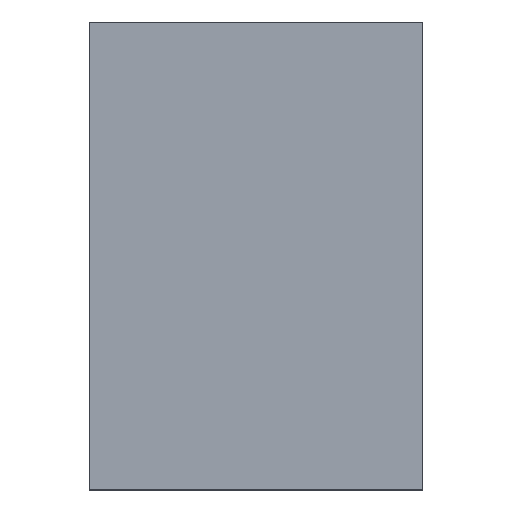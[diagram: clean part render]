
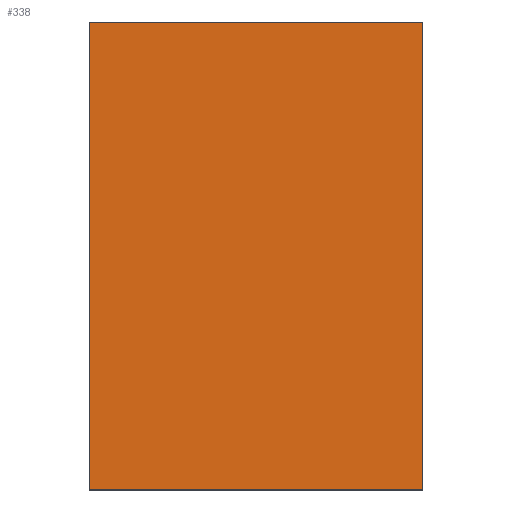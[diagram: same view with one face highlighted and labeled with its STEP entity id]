
A CAD part, top view. The second image highlights one B-rep face of the part: STEP entity #338.
In plain terms, the highlighted planar face has unit normal (0, 0, 1).
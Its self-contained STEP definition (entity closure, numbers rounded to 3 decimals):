
#24 = VERTEX_POINT('',#25);
#25 = CARTESIAN_POINT('',(-29.35,-41.9,13.));
#32 = PLANE('',#33);
#33 = AXIS2_PLACEMENT_3D('',#34,#35,#36);
#34 = CARTESIAN_POINT('',(-29.35,-41.9,12.));
#35 = DIRECTION('',(1.,0.,0.));
#36 = DIRECTION('',(0.,0.,1.));
#44 = PLANE('',#45);
#45 = AXIS2_PLACEMENT_3D('',#46,#47,#48);
#46 = CARTESIAN_POINT('',(-29.35,-41.9,12.));
#47 = DIRECTION('',(0.,1.,0.));
#48 = DIRECTION('',(0.,0.,1.));
#85 = VERTEX_POINT('',#86);
#86 = CARTESIAN_POINT('',(-29.35,-24.1,13.));
#100 = PLANE('',#101);
#101 = AXIS2_PLACEMENT_3D('',#102,#103,#104);
#102 = CARTESIAN_POINT('',(-29.35,-24.1,12.));
#103 = DIRECTION('',(0.,1.,0.));
#104 = DIRECTION('',(0.,0.,1.));
#112 = EDGE_CURVE('',#24,#85,#113,.T.);
#113 = SURFACE_CURVE('',#114,(#118,#125),.PCURVE_S1.);
#114 = LINE('',#115,#116);
#115 = CARTESIAN_POINT('',(-29.35,-41.9,13.));
#116 = VECTOR('',#117,1.);
#117 = DIRECTION('',(0.,1.,0.));
#118 = PCURVE('',#32,#119);
#119 = DEFINITIONAL_REPRESENTATION('',(#120),#124);
#120 = LINE('',#121,#122);
#121 = CARTESIAN_POINT('',(1.,0.));
#122 = VECTOR('',#123,1.);
#123 = DIRECTION('',(0.,-1.));
#124 = ( GEOMETRIC_REPRESENTATION_CONTEXT(2) 
PARAMETRIC_REPRESENTATION_CONTEXT() REPRESENTATION_CONTEXT('2D SPACE',''
  ) );
#125 = PCURVE('',#126,#131);
#126 = PLANE('',#127);
#127 = AXIS2_PLACEMENT_3D('',#128,#129,#130);
#128 = CARTESIAN_POINT('',(-29.35,-41.9,13.));
#129 = DIRECTION('',(0.,0.,1.));
#130 = DIRECTION('',(1.,0.,0.));
#131 = DEFINITIONAL_REPRESENTATION('',(#132),#136);
#132 = LINE('',#133,#134);
#133 = CARTESIAN_POINT('',(0.,0.));
#134 = VECTOR('',#135,1.);
#135 = DIRECTION('',(0.,1.));
#136 = ( GEOMETRIC_REPRESENTATION_CONTEXT(2) 
PARAMETRIC_REPRESENTATION_CONTEXT() REPRESENTATION_CONTEXT('2D SPACE',''
  ) );
#144 = VERTEX_POINT('',#145);
#145 = CARTESIAN_POINT('',(-16.65,-41.9,13.));
#152 = PLANE('',#153);
#153 = AXIS2_PLACEMENT_3D('',#154,#155,#156);
#154 = CARTESIAN_POINT('',(-16.65,-41.9,12.));
#155 = DIRECTION('',(1.,0.,0.));
#156 = DIRECTION('',(0.,0.,1.));
#195 = VERTEX_POINT('',#196);
#196 = CARTESIAN_POINT('',(-16.65,-24.1,13.));
#217 = EDGE_CURVE('',#144,#195,#218,.T.);
#218 = SURFACE_CURVE('',#219,(#223,#230),.PCURVE_S1.);
#219 = LINE('',#220,#221);
#220 = CARTESIAN_POINT('',(-16.65,-41.9,13.));
#221 = VECTOR('',#222,1.);
#222 = DIRECTION('',(0.,1.,0.));
#223 = PCURVE('',#152,#224);
#224 = DEFINITIONAL_REPRESENTATION('',(#225),#229);
#225 = LINE('',#226,#227);
#226 = CARTESIAN_POINT('',(1.,0.));
#227 = VECTOR('',#228,1.);
#228 = DIRECTION('',(0.,-1.));
#229 = ( GEOMETRIC_REPRESENTATION_CONTEXT(2) 
PARAMETRIC_REPRESENTATION_CONTEXT() REPRESENTATION_CONTEXT('2D SPACE',''
  ) );
#230 = PCURVE('',#126,#231);
#231 = DEFINITIONAL_REPRESENTATION('',(#232),#236);
#232 = LINE('',#233,#234);
#233 = CARTESIAN_POINT('',(12.7,0.));
#234 = VECTOR('',#235,1.);
#235 = DIRECTION('',(0.,1.));
#236 = ( GEOMETRIC_REPRESENTATION_CONTEXT(2) 
PARAMETRIC_REPRESENTATION_CONTEXT() REPRESENTATION_CONTEXT('2D SPACE',''
  ) );
#263 = EDGE_CURVE('',#24,#144,#264,.T.);
#264 = SURFACE_CURVE('',#265,(#269,#276),.PCURVE_S1.);
#265 = LINE('',#266,#267);
#266 = CARTESIAN_POINT('',(-29.35,-41.9,13.));
#267 = VECTOR('',#268,1.);
#268 = DIRECTION('',(1.,0.,0.));
#269 = PCURVE('',#44,#270);
#270 = DEFINITIONAL_REPRESENTATION('',(#271),#275);
#271 = LINE('',#272,#273);
#272 = CARTESIAN_POINT('',(1.,0.));
#273 = VECTOR('',#274,1.);
#274 = DIRECTION('',(0.,1.));
#275 = ( GEOMETRIC_REPRESENTATION_CONTEXT(2) 
PARAMETRIC_REPRESENTATION_CONTEXT() REPRESENTATION_CONTEXT('2D SPACE',''
  ) );
#276 = PCURVE('',#126,#277);
#277 = DEFINITIONAL_REPRESENTATION('',(#278),#282);
#278 = LINE('',#279,#280);
#279 = CARTESIAN_POINT('',(0.,0.));
#280 = VECTOR('',#281,1.);
#281 = DIRECTION('',(1.,0.));
#282 = ( GEOMETRIC_REPRESENTATION_CONTEXT(2) 
PARAMETRIC_REPRESENTATION_CONTEXT() REPRESENTATION_CONTEXT('2D SPACE',''
  ) );
#310 = EDGE_CURVE('',#85,#195,#311,.T.);
#311 = SURFACE_CURVE('',#312,(#316,#323),.PCURVE_S1.);
#312 = LINE('',#313,#314);
#313 = CARTESIAN_POINT('',(-29.35,-24.1,13.));
#314 = VECTOR('',#315,1.);
#315 = DIRECTION('',(1.,0.,0.));
#316 = PCURVE('',#100,#317);
#317 = DEFINITIONAL_REPRESENTATION('',(#318),#322);
#318 = LINE('',#319,#320);
#319 = CARTESIAN_POINT('',(1.,0.));
#320 = VECTOR('',#321,1.);
#321 = DIRECTION('',(0.,1.));
#322 = ( GEOMETRIC_REPRESENTATION_CONTEXT(2) 
PARAMETRIC_REPRESENTATION_CONTEXT() REPRESENTATION_CONTEXT('2D SPACE',''
  ) );
#323 = PCURVE('',#126,#324);
#324 = DEFINITIONAL_REPRESENTATION('',(#325),#329);
#325 = LINE('',#326,#327);
#326 = CARTESIAN_POINT('',(0.,17.8));
#327 = VECTOR('',#328,1.);
#328 = DIRECTION('',(1.,0.));
#329 = ( GEOMETRIC_REPRESENTATION_CONTEXT(2) 
PARAMETRIC_REPRESENTATION_CONTEXT() REPRESENTATION_CONTEXT('2D SPACE',''
  ) );
#338 = ADVANCED_FACE('',(#339),#126,.T.);
#339 = FACE_BOUND('',#340,.T.);
#340 = EDGE_LOOP('',(#341,#342,#343,#344));
#341 = ORIENTED_EDGE('',*,*,#112,.F.);
#342 = ORIENTED_EDGE('',*,*,#263,.T.);
#343 = ORIENTED_EDGE('',*,*,#217,.T.);
#344 = ORIENTED_EDGE('',*,*,#310,.F.);
